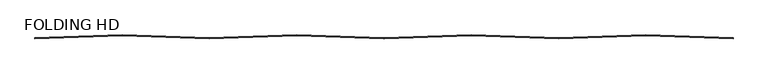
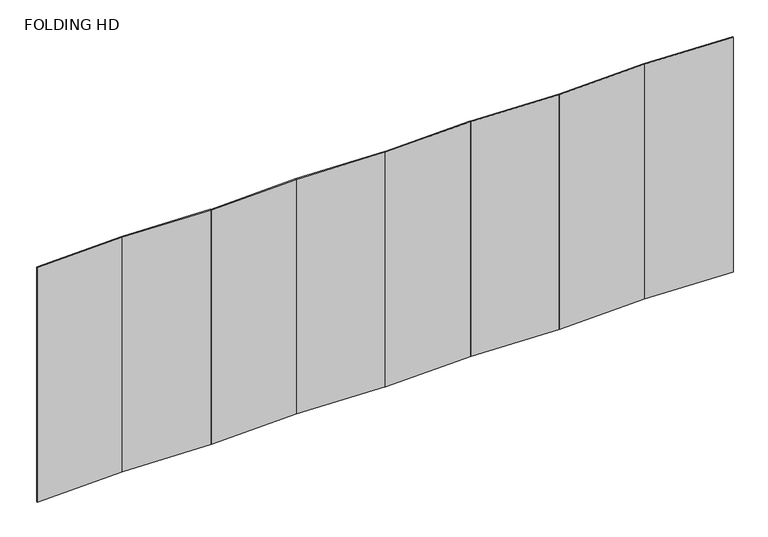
"""IFC4 building model written with IfcOpenShell, lengths in millimetres: plate geometry, FOLDING HD : FOLDING HD-90-2°."""

from ifc_helpers import new_model, si_unit, origin, origin_with_axes, place, context, project, spatial, polyline, outline, extrude, source, transform, mapped, element, save


def folding_hd_abf8ebb9(model_context):
    return source(origin(), model_context, "Body", "SweptSolid", [
        extrude(outline(polyline([(2700.5482557, 31.4095471), (1801.0965114, 0.0), (1800.7475164, 9.9939083), (2700.1992607, 41.4034553), (2700.5482557, 31.4095471)])), origin_with_axes(), (0.0, 0.0, 1.0), 2570.0),
        extrude(outline(polyline([(2700.5482557, 31.409547), (2700.8972506, 41.4034553), (3600.348995, 9.9939083), (3600.0, 0.0), (2700.5482557, 31.409547)])), origin_with_axes(), (0.0, 0.0, 1.0), 2570.0),
        extrude(outline(polyline([(901.644767, 31.409547), (901.993762, 41.4034553), (1801.4455063, 9.9939083), (1801.0965114, 0.0), (901.644767, 31.409547)])), origin_with_axes(), (0.0, 0.0, 1.0), 2570.0),
        extrude(outline(polyline([(901.644767, 31.409547), (2.1930227, 0.0), (1.8440278, 9.9939083), (901.2957721, 41.4034553), (901.644767, 31.409547)])), origin_with_axes(), (0.0, 0.0, 1.0), 2570.0),
        extrude(outline(polyline([(-901.644767, 31.409547), (-1801.0965114, 0.0), (-1801.4455063, 9.9939083), (-901.993762, 41.4034553), (-901.644767, 31.409547)])), origin_with_axes(), (0.0, 0.0, 1.0), 2570.0),
        extrude(outline(polyline([(-901.644767, 31.409547), (-901.2957721, 41.4034553), (-1.8440278, 9.9939083), (-2.1930227, 0.0), (-901.644767, 31.409547)])), origin_with_axes(), (0.0, 0.0, 1.0), 2570.0),
        extrude(outline(polyline([(-2700.5482557, 31.409547), (-2700.1992607, 41.4034553), (-1800.7475164, 9.9939083), (-1801.0965114, 0.0), (-2700.5482557, 31.409547)])), origin_with_axes(), (0.0, 0.0, 1.0), 2570.0),
        extrude(outline(polyline([(-2700.5482557, 31.409547), (-3600.0, 0.0), (-3600.348995, 9.9939083), (-2700.8972506, 41.4034553), (-2700.5482557, 31.409547)])), origin_with_axes(), (0.0, 0.0, 1.0), 2570.0),
    ])


if __name__ == "__main__":
    model = new_model("IFC4")
    model_context = context("Model", 3, world=origin())
    ifc_project = project(units=[si_unit("LENGTHUNIT", "METRE", prefix="MILLI")], contexts=[model_context])
    site = spatial("IfcSite", under=ifc_project)
    building = spatial("IfcBuilding", under=site)
    placement = place(None, origin())
    folding_hd_shape = folding_hd_abf8ebb9(model_context)
    element("IfcPlate", 1, ObjectType="FOLDING HD : FOLDING HD-90-2°", at=placement, inside=building, context=model_context, shape_type="MappedRepresentation", body=[
        mapped(folding_hd_shape, transform((0.0, 0.0, 0.0), x_axis=(1.0, 0.0, 0.0), y_axis=(0.0, 1.0, 0.0), z_axis=(0.0, 0.0, 1.0))),
    ])
    save(model, "model.ifc")
